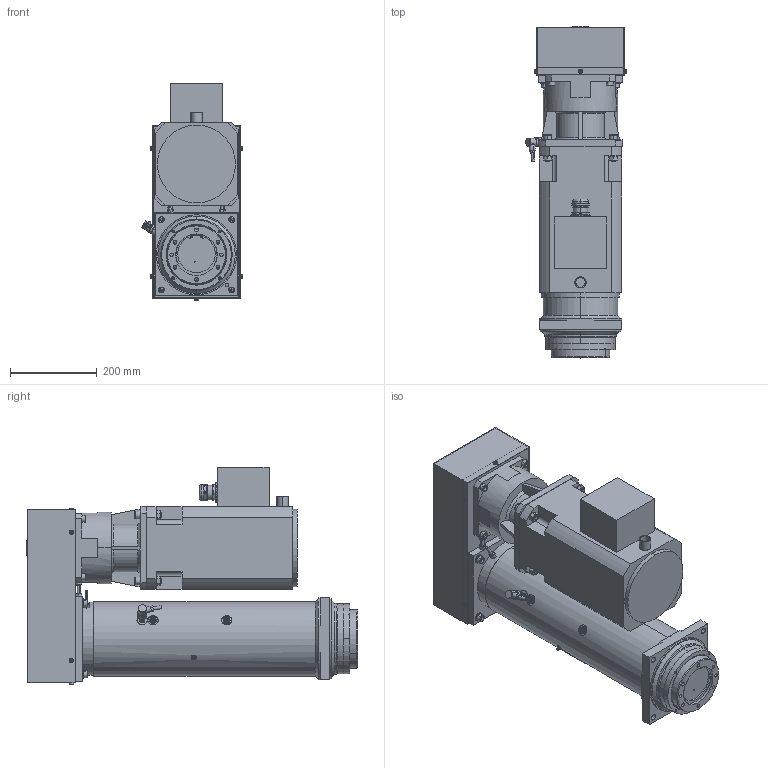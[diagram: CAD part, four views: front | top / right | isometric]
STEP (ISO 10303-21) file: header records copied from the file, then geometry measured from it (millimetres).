
FILE_DESCRIPTION (( 'STEP AP203' ), '1' );
FILE_NAME ('374111.STEP', '2016-11-24T07:36:09', ( 'Holtz' ), ( '' ), 'SwSTEP 2.0', 'SolidWorks 2016', '' );
FILE_SCHEMA (( 'CONFIG_CONTROL_DESIGN' ));
Length unit declared in the file: millimetre
Products named in the file (1): 374111
Bounding box: 232.18 x 766 x 501.37 mm (x, y, z)
Volume: 27418240 mm3; surface area: 2483947.4 mm2
Topology: 56 solids, 56 shells, 2020 faces, 4759 edges, 2890 vertices
Faces by surface type: plane 798, cylinder 726, cone 428, torus 66, bspline 2
Entity records: 62871 total; most frequent: CARTESIAN_POINT 16132, DIRECTION 10220, ORIENTED_EDGE 9226, EDGE_CURVE 4613, AXIS2_PLACEMENT_3D 3996, VERTEX_POINT 2890, EDGE_LOOP 2399, LINE 2228
